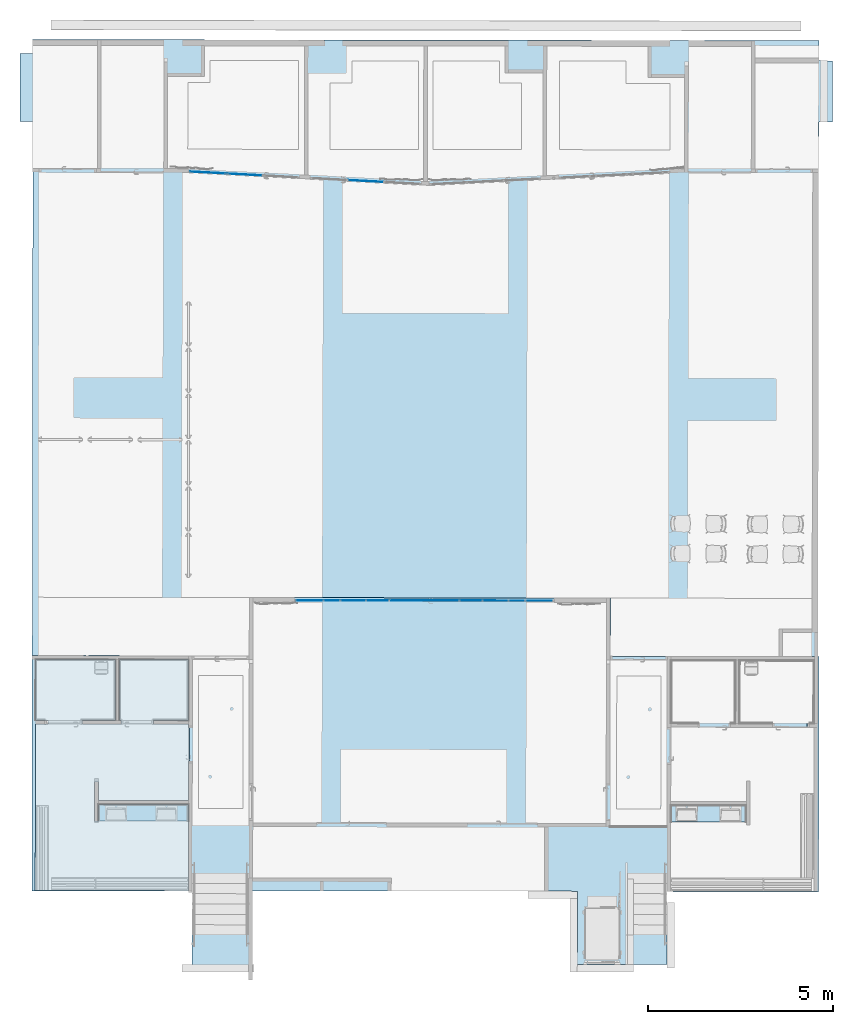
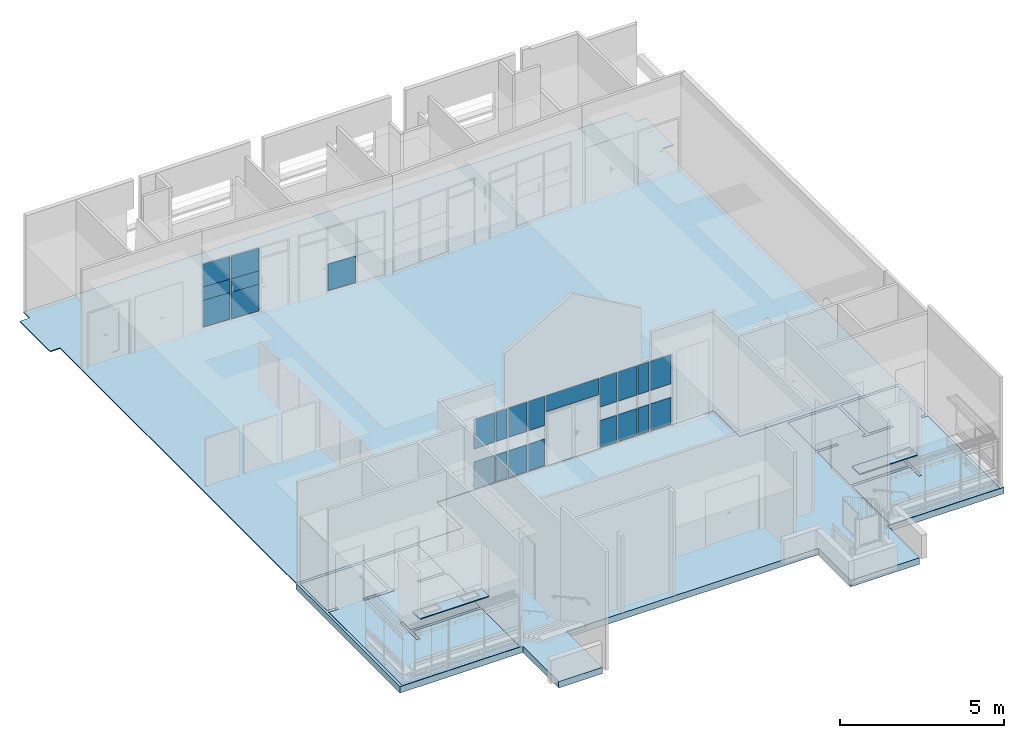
# One storey, part 7 of 43: 24 plates, 6 slabs, 3 elements without a shape of their own.
"""IFC2X3 building model written with IfcOpenShell, lengths in metres."""

from ifc_helpers import new_model, entity, si_unit, converted_unit, derived_unit, direction, frame, frame_2d, origin, place, context, subcontext, project, spatial, polyline, rectangle, outline, extrude, source, transform, mapped, material, layer, layer_set, layer_usage, type_object, type_shapes, element, aggregate, save


model = new_model("IFC2X3")

# Units and contexts
model_context = context("Model", 3, precision=1e-05, world=origin(), true_north=direction((6.123233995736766e-17, 1.0)))
body_context = subcontext(model_context, "Body", "Model", "MODEL_VIEW")
ifc_project = project(units=[si_unit("LENGTHUNIT", "METRE"), si_unit("AREAUNIT", "SQUARE_METRE"), converted_unit("PLANEANGLEUNIT", "DEGREE", entity("IfcPlaneAngleMeasure", 0.017453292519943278), si_unit("PLANEANGLEUNIT", "RADIAN"), dimensions=[0, 0, 0, 0, 0, 0, 0]), derived_unit("THERMALTRANSMITTANCEUNIT", [(si_unit("MASSUNIT", "GRAM", prefix="KILO"), 1), (si_unit("THERMODYNAMICTEMPERATUREUNIT", "KELVIN"), -1), (si_unit("TIMEUNIT", "SECOND"), -3)])], contexts=[model_context])

# Site, building, storey
site_placement = place(None, frame((1253.6752467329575, 2072.143113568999, 91.49999999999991), z_axis=(0.0, 0.0, 1.0), x_axis=(0.7237211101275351, 0.6900925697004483, 0.0)))
site = spatial("IfcSite", under=ifc_project, at=site_placement, Name="Surface", CompositionType="ELEMENT")
building_placement = place(site_placement, origin())
building = spatial("IfcBuilding", under=site, at=building_placement, CompositionType="ELEMENT")
storey_placement = place(building_placement, frame((0.0, 0.0, -4.629999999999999)))
storey = spatial("IfcBuildingStorey", under=building, at=storey_placement, Name="rez de rue -1.10m", CompositionType="ELEMENT", Elevation=-4.629999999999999)

# Slabs
ifc_material_1 = material(Name="OMD_flotex 2")
ifc_layer_1 = layer(ifc_material_1, 0.005)
ifc_material_2 = material(Name="OMD_Béton blanc")
ifc_layer_2 = layer(ifc_material_2, 0.01)
ifc_material_3 = material(Name="Résineux, bois de construction")
ifc_layer_3 = layer(ifc_material_3, 0.022)
ifc_layer_set_1 = layer_set([ifc_layer_1, ifc_layer_2, ifc_layer_3], Name="Sol:OSB 22mm + réagréage 3mm")
ifc_layer_usage_1 = layer_usage(ifc_layer_set_1, "AXIS3", "POSITIVE", 0.0)
slab_type_1 = type_object("IfcSlabType", Name="Sol:OSB 22mm + réagréage 3mm", PredefinedType="FLOOR", material=ifc_layer_set_1)
slab_1_placement = place(storey_placement, origin())
element("IfcSlab", 1, at=slab_1_placement, inside=storey, type_object=slab_type_1, material=ifc_layer_usage_1, Name="Sol:OSB 22mm + réagréage 3mm", ObjectType="Sol:OSB 22mm + réagréage 3mm", PredefinedType="FLOOR", context=body_context, shape_type="SweptSolid", body=[
    extrude(outline(polyline([(-6.7262951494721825, 10.607449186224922), (-6.726295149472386, -10.678678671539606), (-6.3477673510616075, -10.678678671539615), (-6.347767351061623, -11.01861349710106), (-4.501700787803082, -11.01861349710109), (-4.501700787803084, -10.66902036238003), (9.95496053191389, -10.669020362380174), (9.954008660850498, -4.794485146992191), (8.37349812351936, -4.794204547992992), (8.375232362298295, 4.974122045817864), (9.953436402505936, 4.9742144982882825), (9.953106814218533, 10.600430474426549), (-4.526998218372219, 10.606625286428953), (-4.526999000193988, 10.975560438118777), (-6.179359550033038, 10.975463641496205), (-6.17935955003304, 10.607449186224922), (-6.7262951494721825, 10.607449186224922)])), frame((178.99078907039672, 5.517400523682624, 0.0), z_axis=(0.0, 0.0, 1.0), x_axis=(-0.6910261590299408, -0.7228297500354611, 0.0)), (0.0, 0.0, -1.0), 0.03700000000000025),
])
ifc_material_4 = material(Name="OMD-plan de travail béton")
ifc_layer_4 = layer(ifc_material_4, 0.035)
ifc_layer_set_2 = layer_set([ifc_layer_4], Name="Sol:pl travail")
ifc_layer_usage_2 = layer_usage(ifc_layer_set_2, "AXIS3", "POSITIVE", 0.0)
slab_type_2 = type_object("IfcSlabType", Name="Sol:pl travail", PredefinedType="FLOOR", material=ifc_layer_set_2)
slab_2_placement = place(storey_placement, origin())
element("IfcSlab", 2, at=slab_2_placement, inside=storey, type_object=slab_type_2, material=ifc_layer_usage_2, Name="Sol:pl travail", ObjectType="Sol:pl travail", PredefinedType="FLOOR", context=body_context, shape_type="SweptSolid", body=[
    extrude(rectangle(XDim=0.4508958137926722, YDim=2.4402572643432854, at=frame_2d((-8.021361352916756e-15, 7.66053886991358e-15), x_axis=(1.0, 0.0))), frame((163.64631524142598, 0.5407465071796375, 0.7500000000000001), z_axis=(0.0, 0.0, -1.0), x_axis=(-0.6911544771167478, -0.722707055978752, 0.0)), (0.0, 0.0, 1.0), 0.03500000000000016),
])
ifc_layer_usage_3 = layer_usage(ifc_layer_set_2, "AXIS3", "POSITIVE", 0.0)
slab_3_placement = place(storey_placement, origin())
element("IfcSlab", 3, at=slab_3_placement, inside=storey, type_object=slab_type_2, material=ifc_layer_usage_3, Name="Sol:pl travail", ObjectType="Sol:pl travail", PredefinedType="FLOOR", context=body_context, shape_type="SweptSolid", body=[
    extrude(rectangle(XDim=0.4573300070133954, YDim=2.0456550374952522, at=frame_2d((3.569367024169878e-14, 1.3877787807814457e-14), x_axis=(1.0, 0.0))), frame((174.6994188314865, -10.034792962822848, 0.7500000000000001), z_axis=(0.0, 0.0, -1.0), x_axis=(-0.6911544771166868, -0.7227070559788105, 0.0)), (0.0, 0.0, 1.0), 0.03500000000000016),
])

# Curtain wall, plates
curtain_wall_type = type_object("IfcCurtainWallType", Name="Mur-rideau:Menuiserie Int", PredefinedType="NOTDEFINED")
curtain_wall_1_placement = place(storey_placement, frame((0.0, 0.0, 4.629999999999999)))
curtain_wall_1 = element("IfcCurtainWall", 4, at=curtain_wall_1_placement, inside=storey, type_object=curtain_wall_type, Name="Mur-rideau:Menuiserie Int", ObjectType="Mur-rideau:Menuiserie Int")
ifc_material_5 = material(Name="Verre")
ifc_layer_5 = layer(ifc_material_5, 0.01)
ifc_layer_set_3 = layer_set([ifc_layer_5], Name="Panneau système:Vitré")
plate_type_1 = type_object("IfcPlateType", Name="Panneau système:Vitré", PredefinedType="CURTAIN_PANEL", material=ifc_layer_set_3)
shared_shape_1 = source(origin(), body_context, "Body", "SweptSolid", [
    extrude(rectangle(XDim=0.01, YDim=0.7115193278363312, at=frame_2d((0.0, -2.1649348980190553e-15), x_axis=(1.0, 0.0))), frame((0.0, 0.0, 0.0), z_axis=(0.0, 0.0, 1.0), x_axis=(0.0, 1.0, 0.0)), (0.0, 0.0, 1.0), 0.9999999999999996),
])
type_shapes(plate_type_1, [shared_shape_1])
plate_1_placement = place(curtain_wall_1_placement, frame((175.3603650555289, -2.7019199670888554, -4.529999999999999), z_axis=(0.0, 0.0, 1.0), x_axis=(-0.7227070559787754, 0.6911544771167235, 0.0)))
plate_1 = element("IfcPlate", 5, at=plate_1_placement, type_object=plate_type_1, material=ifc_material_5, Name="Panneau système:Vitré", ObjectType="Panneau système:Vitré", context=body_context, shape_type="MappedRepresentation", body=[
    mapped(shared_shape_1, transform((0.0, 0.0, 0.0), scale=1.0)),
])
plate_type_2 = type_object("IfcPlateType", Name="Panneau système:Vitré", PredefinedType="CURTAIN_PANEL", material=ifc_layer_set_3)
shared_shape_2 = source(origin(), body_context, "Body", "SweptSolid", [
    extrude(rectangle(XDim=0.01, YDim=0.40004317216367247, at=frame_2d((0.0, -4.565792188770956e-15), x_axis=(1.0, 0.0))), frame((0.0, 0.0, 0.0), z_axis=(0.0, 0.0, 1.0), x_axis=(0.0, 1.0, 0.0)), (0.0, 0.0, 1.0), 0.9999999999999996),
])
type_shapes(plate_type_2, [shared_shape_2])
plate_2_placement = place(curtain_wall_1_placement, frame((174.92256267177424, -2.2832315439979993, -4.529999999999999), z_axis=(0.0, 0.0, 1.0), x_axis=(-0.7227070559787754, 0.6911544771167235, 0.0)))
plate_2 = element("IfcPlate", 6, at=plate_2_placement, type_object=plate_type_2, material=ifc_material_5, Name="Panneau système:Vitré", ObjectType="Panneau système:Vitré", context=body_context, shape_type="MappedRepresentation", body=[
    mapped(shared_shape_2, transform((0.0, 0.0, 0.0), scale=1.0)),
])
plate_type_3 = type_object("IfcPlateType", Name="Panneau système:Vitré", PredefinedType="CURTAIN_PANEL", material=ifc_layer_set_3)
shared_shape_3 = source(origin(), body_context, "Body", "SweptSolid", [
    extrude(rectangle(XDim=0.01, YDim=0.6534375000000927, at=frame_2d((0.0, -1.7763568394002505e-15), x_axis=(1.0, 0.0))), frame((0.0, 0.0, 0.0), z_axis=(0.0, 0.0, 1.0), x_axis=(0.0, 1.0, 0.0)), (0.0, 0.0, 1.0), 0.9999999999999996),
])
type_shapes(plate_type_3, [shared_shape_3])
plate_3_placement = place(curtain_wall_1_placement, frame((174.50574836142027, -1.8846148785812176, -4.529999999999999), z_axis=(0.0, 0.0, 1.0), x_axis=(-0.7227070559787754, 0.6911544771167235, 0.0)))
plate_3 = element("IfcPlate", 7, at=plate_3_placement, type_object=plate_type_3, material=ifc_material_5, Name="Panneau système:Vitré", ObjectType="Panneau système:Vitré", context=body_context, shape_type="MappedRepresentation", body=[
    mapped(shared_shape_3, transform((0.0, 0.0, 0.0), scale=1.0)),
])
plate_type_4 = type_object("IfcPlateType", Name="Panneau système:Vitré", PredefinedType="CURTAIN_PANEL", material=ifc_layer_set_3)
shared_shape_4 = source(origin(), body_context, "Body", "SweptSolid", [
    extrude(rectangle(XDim=0.01, YDim=0.5749999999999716, at=frame_2d((0.0, -5.551115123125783e-17), x_axis=(1.0, 0.0))), frame((0.0, 0.0, 0.0), z_axis=(0.0, 0.0, 1.0), x_axis=(0.0, 1.0, 0.0)), (0.0, 0.0, 1.0), 0.9999999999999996),
])
type_shapes(plate_type_4, [shared_shape_4])
plate_4_placement = place(curtain_wall_1_placement, frame((174.02571278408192, -1.425537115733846, -4.529999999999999), z_axis=(0.0, 0.0, 1.0), x_axis=(-0.7227070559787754, 0.6911544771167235, 0.0)))
plate_4 = element("IfcPlate", 8, at=plate_4_placement, type_object=plate_type_4, material=ifc_material_5, Name="Panneau système:Vitré", ObjectType="Panneau système:Vitré", context=body_context, shape_type="MappedRepresentation", body=[
    mapped(shared_shape_4, transform((0.0, 0.0, 0.0), scale=1.0)),
])
plate_5_placement = place(curtain_wall_1_placement, frame((172.19636054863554, 0.3239476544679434, -4.529999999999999), z_axis=(0.0, 0.0, 1.0), x_axis=(-0.7227070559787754, 0.6911544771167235, 0.0)))
plate_5 = element("IfcPlate", 9, at=plate_5_placement, type_object=plate_type_4, material=ifc_material_5, Name="Panneau système:Vitré", ObjectType="Panneau système:Vitré", context=body_context, shape_type="MappedRepresentation", body=[
    mapped(shared_shape_4, transform((0.0, 0.0, 0.0), scale=1.0)),
])
plate_type_5 = type_object("IfcPlateType", Name="Panneau système:Vitré", PredefinedType="CURTAIN_PANEL", material=ifc_layer_set_3)
shared_shape_5 = source(origin(), body_context, "Body", "SweptSolid", [
    extrude(rectangle(XDim=0.01, YDim=0.6501545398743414, at=frame_2d((0.0, 3.0253577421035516e-15), x_axis=(1.0, 0.0))), frame((0.0, 0.0, 0.0), z_axis=(0.0, 0.0, 1.0), x_axis=(0.0, 1.0, 0.0)), (0.0, 0.0, 1.0), 0.9999999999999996),
])
type_shapes(plate_type_5, [shared_shape_5])
plate_6_placement = place(curtain_wall_1_placement, frame((171.7175112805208, 0.7818909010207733, -4.529999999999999), z_axis=(0.0, 0.0, 1.0), x_axis=(-0.7227070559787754, 0.6911544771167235, 0.0)))
plate_6 = element("IfcPlate", 10, at=plate_6_placement, type_object=plate_type_5, material=ifc_material_5, Name="Panneau système:Vitré", ObjectType="Panneau système:Vitré", context=body_context, shape_type="MappedRepresentation", body=[
    mapped(shared_shape_5, transform((0.0, 0.0, 0.0), scale=1.0)),
])
plate_type_6 = type_object("IfcPlateType", Name="Panneau système:Vitré", PredefinedType="CURTAIN_PANEL", material=ifc_layer_set_3)
shared_shape_6 = source(origin(), body_context, "Body", "SweptSolid", [
    extrude(rectangle(XDim=0.01, YDim=0.40000032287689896, at=frame_2d((0.0, -4.066191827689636e-15), x_axis=(1.0, 0.0))), frame((0.0, 0.0, 0.0), z_axis=(0.0, 0.0, 1.0), x_axis=(0.0, 1.0, 0.0)), (0.0, 0.0, 1.0), 0.9999999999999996),
])
type_shapes(plate_type_6, [shared_shape_6])
plate_7_placement = place(curtain_wall_1_placement, frame((171.30189876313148, 1.1793582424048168, -4.529999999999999), z_axis=(0.0, 0.0, 1.0), x_axis=(-0.7227070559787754, 0.6911544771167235, 0.0)))
plate_7 = element("IfcPlate", 11, at=plate_7_placement, type_object=plate_type_6, material=ifc_material_5, Name="Panneau système:Vitré", ObjectType="Panneau système:Vitré", context=body_context, shape_type="MappedRepresentation", body=[
    mapped(shared_shape_6, transform((0.0, 0.0, 0.0), scale=1.0)),
])
plate_type_7 = type_object("IfcPlateType", Name="Panneau système:Vitré", PredefinedType="CURTAIN_PANEL", material=ifc_layer_set_3)
shared_shape_7 = source(origin(), body_context, "Body", "SweptSolid", [
    extrude(rectangle(XDim=0.01, YDim=0.7101866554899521, at=frame_2d((0.0, -4.191091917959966e-15), x_axis=(1.0, 0.0))), frame((0.0, 0.0, 0.0), z_axis=(0.0, 0.0, 1.0), x_axis=(0.0, 1.0, 0.0)), (0.0, 0.0, 1.0), 0.9999999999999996),
])
type_shapes(plate_type_7, [shared_shape_7])
plate_8_placement = place(curtain_wall_1_placement, frame((170.86459342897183, 1.5975713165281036, -4.529999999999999), z_axis=(0.0, 0.0, 1.0), x_axis=(-0.7227070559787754, 0.6911544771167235, 0.0)))
plate_8 = element("IfcPlate", 12, at=plate_8_placement, type_object=plate_type_7, material=ifc_material_5, Name="Panneau système:Vitré", ObjectType="Panneau système:Vitré", context=body_context, shape_type="MappedRepresentation", body=[
    mapped(shared_shape_7, transform((0.0, 0.0, 0.0), scale=1.0)),
])
plate_type_8 = type_object("IfcPlateType", Name="Panneau système:Vitré", PredefinedType="CURTAIN_PANEL", material=ifc_layer_set_3)
shared_shape_8 = source(origin(), body_context, "Body", "SweptSolid", [
    extrude(rectangle(XDim=1.0900000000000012, YDim=0.7115193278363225, at=frame_2d((0.0283333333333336, 4.135580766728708e-15), x_axis=(1.0, 0.0))), frame((0.0, -0.004999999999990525, 0.516666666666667), z_axis=(0.0, 1.0, 0.0), x_axis=(0.0, 0.0, 1.0)), (0.0, 0.0, 1.0), 0.01),
])
type_shapes(plate_type_8, [shared_shape_8])
plate_9_placement = place(curtain_wall_1_placement, frame((175.3603650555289, -2.7019199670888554, -3.0300000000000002), z_axis=(0.0, 0.0, 1.0), x_axis=(-0.7227070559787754, 0.6911544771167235, 0.0)))
plate_9 = element("IfcPlate", 13, at=plate_9_placement, type_object=plate_type_8, material=ifc_material_5, Name="Panneau système:Vitré", ObjectType="Panneau système:Vitré", context=body_context, shape_type="MappedRepresentation", body=[
    mapped(shared_shape_8, transform((0.0, 0.0, 0.0), scale=1.0)),
])
plate_type_9 = type_object("IfcPlateType", Name="Panneau système:Vitré", PredefinedType="CURTAIN_PANEL", material=ifc_layer_set_3)
shared_shape_9 = source(origin(), body_context, "Body", "SweptSolid", [
    extrude(rectangle(XDim=1.0900000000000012, YDim=0.40004317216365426, at=frame_2d((0.0283333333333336, 5.676015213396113e-15), x_axis=(1.0, 0.0))), frame((0.0, -0.004999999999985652, 0.516666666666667), z_axis=(0.0, 1.0, 0.0), x_axis=(0.0, 0.0, 1.0)), (0.0, 0.0, 1.0), 0.01),
])
type_shapes(plate_type_9, [shared_shape_9])
plate_10_placement = place(curtain_wall_1_placement, frame((174.92256267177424, -2.2832315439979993, -3.0300000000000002), z_axis=(0.0, 0.0, 1.0), x_axis=(-0.7227070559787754, 0.6911544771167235, 0.0)))
plate_10 = element("IfcPlate", 14, at=plate_10_placement, type_object=plate_type_9, material=ifc_material_5, Name="Panneau système:Vitré", ObjectType="Panneau système:Vitré", context=body_context, shape_type="MappedRepresentation", body=[
    mapped(shared_shape_9, transform((0.0, 0.0, 0.0), scale=1.0)),
])
plate_type_10 = type_object("IfcPlateType", Name="Panneau système:Vitré", PredefinedType="CURTAIN_PANEL", material=ifc_layer_set_3)
shared_shape_10 = source(origin(), body_context, "Body", "SweptSolid", [
    extrude(rectangle(XDim=1.0900000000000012, YDim=0.6534375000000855, at=frame_2d((0.0283333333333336, 5.551115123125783e-17), x_axis=(1.0, 0.0))), frame((0.0, -0.005000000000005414, 0.516666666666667), z_axis=(0.0, 1.0, 0.0), x_axis=(0.0, 0.0, 1.0)), (0.0, 0.0, 1.0), 0.01),
])
type_shapes(plate_type_10, [shared_shape_10])
plate_11_placement = place(curtain_wall_1_placement, frame((174.50574836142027, -1.8846148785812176, -3.0300000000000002), z_axis=(0.0, 0.0, 1.0), x_axis=(-0.7227070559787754, 0.6911544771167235, 0.0)))
plate_11 = element("IfcPlate", 15, at=plate_11_placement, type_object=plate_type_10, material=ifc_material_5, Name="Panneau système:Vitré", ObjectType="Panneau système:Vitré", context=body_context, shape_type="MappedRepresentation", body=[
    mapped(shared_shape_10, transform((0.0, 0.0, 0.0), scale=1.0)),
])
plate_type_11 = type_object("IfcPlateType", Name="Panneau système:Vitré", PredefinedType="CURTAIN_PANEL", material=ifc_layer_set_3)
shared_shape_11 = source(origin(), body_context, "Body", "SweptSolid", [
    extrude(rectangle(XDim=1.0900000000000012, YDim=0.5749999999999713, at=frame_2d((0.0283333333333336, -3.608224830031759e-16), x_axis=(1.0, 0.0))), frame((0.0, -0.004999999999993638, 0.516666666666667), z_axis=(0.0, 1.0, 0.0), x_axis=(0.0, 0.0, 1.0)), (0.0, 0.0, 1.0), 0.01),
])
type_shapes(plate_type_11, [shared_shape_11])
plate_12_placement = place(curtain_wall_1_placement, frame((174.02571278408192, -1.425537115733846, -3.0300000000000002), z_axis=(0.0, 0.0, 1.0), x_axis=(-0.7227070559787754, 0.6911544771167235, 0.0)))
plate_12 = element("IfcPlate", 16, at=plate_12_placement, type_object=plate_type_11, material=ifc_material_5, Name="Panneau système:Vitré", ObjectType="Panneau système:Vitré", context=body_context, shape_type="MappedRepresentation", body=[
    mapped(shared_shape_11, transform((0.0, 0.0, 0.0), scale=1.0)),
])
plate_13_placement = place(curtain_wall_1_placement, frame((172.19636054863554, 0.3239476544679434, -3.0300000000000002), z_axis=(0.0, 0.0, 1.0), x_axis=(-0.7227070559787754, 0.6911544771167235, 0.0)))
plate_13 = element("IfcPlate", 17, at=plate_13_placement, type_object=plate_type_11, material=ifc_material_5, Name="Panneau système:Vitré", ObjectType="Panneau système:Vitré", context=body_context, shape_type="MappedRepresentation", body=[
    mapped(shared_shape_11, transform((0.0, 0.0, 0.0), scale=1.0)),
])
plate_type_12 = type_object("IfcPlateType", Name="Panneau système:Vitré", PredefinedType="CURTAIN_PANEL", material=ifc_layer_set_3)
shared_shape_12 = source(origin(), body_context, "Body", "SweptSolid", [
    extrude(rectangle(XDim=1.0900000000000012, YDim=0.6501545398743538, at=frame_2d((0.0283333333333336, -1.942890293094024e-16), x_axis=(1.0, 0.0))), frame((0.0, -0.004999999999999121, 0.516666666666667), z_axis=(0.0, 1.0, 0.0), x_axis=(0.0, 0.0, 1.0)), (0.0, 0.0, 1.0), 0.01),
])
type_shapes(plate_type_12, [shared_shape_12])
plate_14_placement = place(curtain_wall_1_placement, frame((171.7175112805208, 0.7818909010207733, -3.0300000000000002), z_axis=(0.0, 0.0, 1.0), x_axis=(-0.7227070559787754, 0.6911544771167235, 0.0)))
plate_14 = element("IfcPlate", 18, at=plate_14_placement, type_object=plate_type_12, material=ifc_material_5, Name="Panneau système:Vitré", ObjectType="Panneau système:Vitré", context=body_context, shape_type="MappedRepresentation", body=[
    mapped(shared_shape_12, transform((0.0, 0.0, 0.0), scale=1.0)),
])
plate_type_13 = type_object("IfcPlateType", Name="Panneau système:Vitré", PredefinedType="CURTAIN_PANEL", material=ifc_layer_set_3)
shared_shape_13 = source(origin(), body_context, "Body", "SweptSolid", [
    extrude(rectangle(XDim=1.0900000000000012, YDim=0.4000003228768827, at=frame_2d((0.0283333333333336, 5.995204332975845e-15), x_axis=(1.0, 0.0))), frame((0.0, -0.005000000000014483, 0.516666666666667), z_axis=(0.0, 1.0, 0.0), x_axis=(0.0, 0.0, 1.0)), (0.0, 0.0, 1.0), 0.01),
])
type_shapes(plate_type_13, [shared_shape_13])
plate_15_placement = place(curtain_wall_1_placement, frame((171.30189876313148, 1.1793582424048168, -3.0300000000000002), z_axis=(0.0, 0.0, 1.0), x_axis=(-0.7227070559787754, 0.6911544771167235, 0.0)))
plate_15 = element("IfcPlate", 19, at=plate_15_placement, type_object=plate_type_13, material=ifc_material_5, Name="Panneau système:Vitré", ObjectType="Panneau système:Vitré", context=body_context, shape_type="MappedRepresentation", body=[
    mapped(shared_shape_13, transform((0.0, 0.0, 0.0), scale=1.0)),
])
plate_type_14 = type_object("IfcPlateType", Name="Panneau système:Vitré", PredefinedType="CURTAIN_PANEL", material=ifc_layer_set_3)
shared_shape_14 = source(origin(), body_context, "Body", "SweptSolid", [
    extrude(rectangle(XDim=1.0900000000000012, YDim=0.710186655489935, at=frame_2d((0.0283333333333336, 1.4710455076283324e-15), x_axis=(1.0, 0.0))), frame((0.0, -0.004999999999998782, 0.516666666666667), z_axis=(0.0, 1.0, 0.0), x_axis=(0.0, 0.0, 1.0)), (0.0, 0.0, 1.0), 0.01),
])
type_shapes(plate_type_14, [shared_shape_14])
plate_16_placement = place(curtain_wall_1_placement, frame((170.86459342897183, 1.5975713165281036, -3.0300000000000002), z_axis=(0.0, 0.0, 1.0), x_axis=(-0.7227070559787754, 0.6911544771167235, 0.0)))
plate_16 = element("IfcPlate", 20, at=plate_16_placement, type_object=plate_type_14, material=ifc_material_5, Name="Panneau système:Vitré", ObjectType="Panneau système:Vitré", context=body_context, shape_type="MappedRepresentation", body=[
    mapped(shared_shape_14, transform((0.0, 0.0, 0.0), scale=1.0)),
])
plate_type_15 = type_object("IfcPlateType", Name="Panneau système:Vitré", PredefinedType="CURTAIN_PANEL", material=ifc_layer_set_3)
shared_shape_15 = source(origin(), body_context, "Body", "SweptSolid", [
    extrude(rectangle(XDim=0.01, YDim=1.8562500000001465, at=frame_2d((0.0, 3.885780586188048e-16), x_axis=(1.0, 0.0))), frame((0.0, 0.0, 0.0), z_axis=(0.0, 0.0, 1.0), x_axis=(0.0, 1.0, 0.0)), (0.0, 0.0, 1.0), 0.6050000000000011),
])
type_shapes(plate_type_15, [shared_shape_15])
plate_17_placement = place(curtain_wall_1_placement, frame((173.11103666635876, -0.5507947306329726, -2.545), z_axis=(0.0, 0.0, 1.0), x_axis=(-0.7227070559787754, 0.6911544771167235, 0.0)))
plate_17 = element("IfcPlate", 21, at=plate_17_placement, type_object=plate_type_15, material=ifc_material_5, Name="Panneau système:Vitré", ObjectType="Panneau système:Vitré", context=body_context, shape_type="MappedRepresentation", body=[
    mapped(shared_shape_15, transform((0.0, 0.0, 0.0), scale=1.0)),
])
aggregate(curtain_wall_1, [plate_1, plate_2, plate_3, plate_4, plate_5, plate_6, plate_7, plate_8, plate_9, plate_10, plate_11, plate_12, plate_13, plate_14, plate_15, plate_16, plate_17])

# Slab
ifc_material_6 = material(Name="OMD_dalle")
ifc_layer_6 = layer(ifc_material_6, 0.01)
ifc_material_7 = material(Name="Béton - Béton coulé sur place")
ifc_layer_7 = layer(ifc_material_7, 0.12999999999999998)
ifc_material_8 = material(Name="OMD_ITE 10cm")
ifc_layer_8 = layer(ifc_material_8, 0.1)
ifc_layer_set_4 = layer_set([ifc_layer_6, ifc_layer_7, ifc_layer_8], Name="Sol:Dalle béton 13 cm")
ifc_layer_usage_4 = layer_usage(ifc_layer_set_4, "AXIS3", "POSITIVE", 0.0)
slab_type_3 = type_object("IfcSlabType", Name="Sol:Dalle béton 13 cm", PredefinedType="FLOOR", material=ifc_layer_set_4)
slab_4_placement = place(storey_placement, origin())
element("IfcSlab", 22, at=slab_4_placement, inside=storey, type_object=slab_type_3, material=ifc_layer_usage_4, Name="Sol:Dalle béton 13 cm", ObjectType="Sol:Dalle béton 13 cm", PredefinedType="FLOOR", context=body_context, shape_type="SweptSolid", body=[
    extrude(outline(polyline([(-10.623334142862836, 4.302657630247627), (-10.623334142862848, -2.0670135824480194), (-6.28762533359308, -2.0670135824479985), (-6.287625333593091, -4.2572228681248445), (-4.747484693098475, -4.257222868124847), (-4.747113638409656, -2.0570581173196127), (4.142942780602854, -2.0575263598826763), (4.141875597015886, -4.037214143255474), (6.56667437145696, -4.037914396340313), (6.567243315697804, -2.0678048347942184), (10.676498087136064, -2.0680212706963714), (10.676833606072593, 4.3021434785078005), (5.020327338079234, 4.302441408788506), (5.020410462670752, 5.880645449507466), (-4.7479158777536, 5.883466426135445), (-4.748372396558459, 4.302657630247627), (-10.623334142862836, 4.302657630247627)])), frame((169.1062329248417, -4.7560413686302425, -0.0022222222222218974), z_axis=(0.0, 0.0, 1.0), x_axis=(0.7229066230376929, -0.690945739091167, 0.0)), (0.0, 0.0, -1.0), 0.24000000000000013),
])

# Curtain wall, plate
curtain_wall_2_placement = place(storey_placement, frame((0.0, 0.0, 4.629999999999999)))
curtain_wall_2 = element("IfcCurtainWall", 23, at=curtain_wall_2_placement, inside=storey, type_object=curtain_wall_type, Name="Mur-rideau:Menuiserie Int", ObjectType="Mur-rideau:Menuiserie Int")
plate_type_16 = type_object("IfcPlateType", Name="Panneau système:Vitré", PredefinedType="CURTAIN_PANEL", material=ifc_layer_set_3)
shared_shape_16 = source(origin(), body_context, "Body", "SweptSolid", [
    extrude(rectangle(XDim=0.01, YDim=0.9499999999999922, at=frame_2d((0.0, -6.161737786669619e-15), x_axis=(1.0, 0.0))), frame((0.0, 0.0, 0.0), z_axis=(0.0, 0.0, 1.0), x_axis=(0.0, 1.0, 0.0)), (0.0, 0.0, 1.0), 1.0),
])
type_shapes(plate_type_16, [shared_shape_16])
plate_18_placement = place(curtain_wall_2_placement, frame((179.7996649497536, 8.763895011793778, -4.529999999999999), z_axis=(0.0, 0.0, 1.0), x_axis=(0.6855443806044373, -0.7280308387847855, 0.0)))
plate_18 = element("IfcPlate", 24, at=plate_18_placement, type_object=plate_type_16, material=ifc_material_5, Name="Panneau système:Vitré", ObjectType="Panneau système:Vitré", context=body_context, shape_type="MappedRepresentation", body=[
    mapped(shared_shape_16, transform((0.0, 0.0, 0.0), scale=1.0)),
])
aggregate(curtain_wall_2, [plate_18])

# Slabs
ifc_material_9 = material(Name="OMD_carrelage effet béton")
ifc_layer_9 = layer(ifc_material_9, 0.02)
ifc_layer_set_5 = layer_set([ifc_layer_9], Name="Sol:carrelage effet béton 60*60")
ifc_layer_usage_5 = layer_usage(ifc_layer_set_5, "AXIS3", "POSITIVE", 0.0)
slab_type_4 = type_object("IfcSlabType", Name="Sol:carrelage effet béton 60*60", PredefinedType="FLOOR", material=ifc_layer_set_5)
slab_5_placement = place(storey_placement, origin())
element("IfcSlab", 25, at=slab_5_placement, inside=storey, type_object=slab_type_4, material=ifc_layer_usage_5, Name="Sol:carrelage effet béton 60*60", ObjectType="Sol:carrelage effet béton 60*60", PredefinedType="FLOOR", context=body_context, shape_type="SweptSolid", body=[
    extrude(outline(polyline([(-2.335034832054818, -2.383056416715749), (-0.16384408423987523, -2.3830564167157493), (-0.16384408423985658, -0.7341229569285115), (-1.063844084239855, -0.7341229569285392), (-1.0638440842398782, -0.6341229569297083), (-0.013844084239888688, -0.6341229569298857), (-0.01384408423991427, -0.7341229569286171), (-0.06384408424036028, -0.7341229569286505), (-0.06384408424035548, -2.3835926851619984), (1.813081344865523, -2.3835926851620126), (1.8130813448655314, -0.7341229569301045), (0.8561559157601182, -0.7341229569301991), (0.8561559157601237, -0.6341229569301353), (1.8130813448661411, -0.6341229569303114), (1.813081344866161, -0.5491229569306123), (1.8430813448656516, -0.5491229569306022), (1.8430813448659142, 0.3808770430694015), (1.8130813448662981, 0.3808770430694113), (1.8130813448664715, 1.437298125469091), (-0.6275538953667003, 1.436721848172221), (-0.6274358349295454, 0.9367152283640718), (-0.7274358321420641, 0.936691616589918), (-0.7276839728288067, 1.9876108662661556), (-0.6276839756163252, 1.9876344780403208), (-0.6275775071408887, 1.5367218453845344), (1.8130813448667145, 1.5372981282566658), (1.8130813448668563, 3.875409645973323), (-2.3346218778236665, 3.8754096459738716), (-2.3346218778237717, -0.6341229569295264), (-1.9938440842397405, -0.6341229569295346), (-1.993844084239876, -0.7341229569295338), (-2.3350348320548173, -0.7341229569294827), (-2.335034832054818, -2.383056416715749)])), frame((164.43571921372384, 2.2241046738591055, 0.0), z_axis=(0.0, 0.0, -1.0), x_axis=(0.7227070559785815, -0.6911544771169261, 0.0)), (0.0, 0.0, 1.0), 0.019999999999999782),
])
ifc_layer_usage_6 = layer_usage(ifc_layer_set_5, "AXIS3", "POSITIVE", 0.0)
slab_6_placement = place(storey_placement, origin())
element("IfcSlab", 26, at=slab_6_placement, inside=storey, type_object=slab_type_4, material=ifc_layer_usage_6, Name="Sol:carrelage effet béton 60*60", ObjectType="Sol:carrelage effet béton 60*60", PredefinedType="FLOOR", context=body_context, shape_type="SweptSolid", body=[
    extrude(outline(polyline([(-0.03046019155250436, -2.432551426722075), (2.0005927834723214, -2.4325514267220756), (2.000592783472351, -0.7166795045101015), (1.8095398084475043, -0.7166795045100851), (1.8095398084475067, -0.6166795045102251), (1.9985205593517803, -0.6166795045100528), (1.997408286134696, 3.8274634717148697), (-1.8804601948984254, 3.8283791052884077), (-1.880460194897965, 1.4932158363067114), (0.16519484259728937, 1.4932158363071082), (0.16519484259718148, 2.0332158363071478), (0.2651948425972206, 2.0332158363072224), (0.2651948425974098, 0.8332158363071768), (0.16519484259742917, 0.8332158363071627), (0.16519484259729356, 1.3932158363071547), (-1.8804601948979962, 1.3932158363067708), (-1.8804601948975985, -0.616679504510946), (-1.1404601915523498, -0.6166795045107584), (-1.140460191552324, -0.7166795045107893), (-1.8804601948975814, -0.7166795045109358), (-1.8804601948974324, -2.431270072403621), (-0.13046019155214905, -2.4316832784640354), (-0.1304601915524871, -0.7166795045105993), (-0.270460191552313, -0.7166795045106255), (-0.27046019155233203, -0.6166795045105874), (0.8095398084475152, -0.6166795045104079), (0.8095398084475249, -0.7166795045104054), (-0.030460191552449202, -0.7166795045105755), (-0.03046019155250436, -2.432551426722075)])), frame((176.50932166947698, -9.383134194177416, 0.0), z_axis=(0.0, 0.0, -1.0), x_axis=(0.7227070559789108, -0.6911544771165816, 0.0)), (0.0, 0.0, 1.0), 0.019999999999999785),
])

# Curtain wall, plates
curtain_wall_3_placement = place(storey_placement, frame((0.0, 0.0, 4.629999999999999)))
curtain_wall_3 = element("IfcCurtainWall", 27, at=curtain_wall_3_placement, inside=storey, type_object=curtain_wall_type, Name="Mur-rideau:Menuiserie Int", ObjectType="Mur-rideau:Menuiserie Int")
plate_type_17 = type_object("IfcPlateType", Name="Panneau système:Vitré", PredefinedType="CURTAIN_PANEL", material=ifc_layer_set_3)
shared_shape_17 = source(origin(), body_context, "Body", "SweptSolid", [
    extrude(rectangle(XDim=0.01, YDim=0.9499999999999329, at=frame_2d((0.0, 1.2212453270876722e-15), x_axis=(1.0, 0.0))), frame((0.0, 0.0, 0.0), z_axis=(0.0, 0.0, 1.0), x_axis=(0.0, 1.0, 0.0)), (0.0, 0.0, 1.0), 1.0),
])
type_shapes(plate_type_17, [shared_shape_17])
plate_19_placement = place(curtain_wall_3_placement, frame((177.53496774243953, 11.168946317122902, -4.529999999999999), z_axis=(0.0, 0.0, 1.0), x_axis=(-0.6855443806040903, 0.7280308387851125, 0.0)))
plate_19 = element("IfcPlate", 28, at=plate_19_placement, type_object=plate_type_17, material=ifc_material_5, Name="Panneau système:Vitré", ObjectType="Panneau système:Vitré", context=body_context, shape_type="MappedRepresentation", body=[
    mapped(shared_shape_17, transform((0.0, 0.0, 0.0), scale=1.0)),
])
ifc_material_10 = material(Name="Verre, vitrage transparent")
ifc_layer_10 = layer(ifc_material_5, 0.01)
ifc_layer_set_6 = layer_set([ifc_layer_10], Name="Panneau système:Vitré +vitro")
plate_type_18 = type_object("IfcPlateType", Name="Panneau système:Vitré +vitro", PredefinedType="CURTAIN_PANEL", material=ifc_layer_set_6)
shared_shape_18 = source(origin(), body_context, "Body", "SweptSolid", [
    extrude(rectangle(XDim=0.01, YDim=0.9499999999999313, at=frame_2d((0.0, 1.304512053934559e-15), x_axis=(1.0, 0.0))), frame((0.0, 0.0, 0.0), z_axis=(0.0, 0.0, 1.0), x_axis=(0.0, 1.0, 0.0)), (0.0, 0.0, 1.0), 0.5),
])
type_shapes(plate_type_18, [shared_shape_18])
plate_20_placement = place(curtain_wall_3_placement, frame((177.53496774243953, 11.168946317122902, -3.529999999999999), z_axis=(0.0, 0.0, 1.0), x_axis=(-0.6855443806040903, 0.7280308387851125, 0.0)))
plate_20 = element("IfcPlate", 29, at=plate_20_placement, type_object=plate_type_18, material=ifc_material_10, Name="Panneau système:Vitré +vitro", ObjectType="Panneau système:Vitré +vitro", context=body_context, shape_type="MappedRepresentation", body=[
    mapped(shared_shape_18, transform((0.0, 0.0, 0.0), scale=1.0)),
])
plate_type_19 = type_object("IfcPlateType", Name="Panneau système:Vitré", PredefinedType="CURTAIN_PANEL", material=ifc_layer_set_3)
shared_shape_19 = source(origin(), body_context, "Body", "SweptSolid", [
    extrude(rectangle(XDim=0.8499999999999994, YDim=0.9499999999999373, at=frame_2d((-0.01166666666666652, -6.022959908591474e-15), x_axis=(1.0, 0.0))), frame((0.0, -0.0049999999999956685, 0.43666666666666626), z_axis=(0.0, 1.0, 0.0), x_axis=(0.0, 0.0, 1.0)), (0.0, 0.0, 1.0), 0.01),
])
type_shapes(plate_type_19, [shared_shape_19])
plate_21_placement = place(curtain_wall_3_placement, frame((177.53496774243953, 11.168946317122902, -3.029999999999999), z_axis=(0.0, 0.0, 1.0), x_axis=(-0.6855443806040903, 0.7280308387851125, 0.0)))
plate_21 = element("IfcPlate", 30, at=plate_21_placement, type_object=plate_type_19, material=ifc_material_5, Name="Panneau système:Vitré", ObjectType="Panneau système:Vitré", context=body_context, shape_type="MappedRepresentation", body=[
    mapped(shared_shape_19, transform((0.0, 0.0, 0.0), scale=1.0)),
])
plate_type_20 = type_object("IfcPlateType", Name="Panneau système:Vitré", PredefinedType="CURTAIN_PANEL", material=ifc_layer_set_3)
shared_shape_20 = source(origin(), body_context, "Body", "SweptSolid", [
    extrude(rectangle(XDim=0.01, YDim=0.9249991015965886, at=frame_2d((0.0, -4.718447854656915e-16), x_axis=(1.0, 0.0))), frame((0.0, 0.0, 0.0), z_axis=(0.0, 0.0, 1.0), x_axis=(0.0, 1.0, 0.0)), (0.0, 0.0, 1.0), 1.0),
])
type_shapes(plate_type_20, [shared_shape_20])
plate_22_placement = place(curtain_wall_3_placement, frame((176.8579929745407, 11.88787644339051, -4.529999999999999), z_axis=(0.0, 0.0, 1.0), x_axis=(-0.6855443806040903, 0.7280308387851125, 0.0)))
plate_22 = element("IfcPlate", 31, at=plate_22_placement, type_object=plate_type_20, material=ifc_material_5, Name="Panneau système:Vitré", ObjectType="Panneau système:Vitré", context=body_context, shape_type="MappedRepresentation", body=[
    mapped(shared_shape_20, transform((0.0, 0.0, 0.0), scale=1.0)),
])
plate_type_21 = type_object("IfcPlateType", Name="Panneau système:Vitré +vitro", PredefinedType="CURTAIN_PANEL", material=ifc_layer_set_6)
shared_shape_21 = source(origin(), body_context, "Body", "SweptSolid", [
    extrude(rectangle(XDim=0.01, YDim=0.9249991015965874, at=frame_2d((0.0, -5.551115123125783e-16), x_axis=(1.0, 0.0))), frame((0.0, 0.0, 0.0), z_axis=(0.0, 0.0, 1.0), x_axis=(0.0, 1.0, 0.0)), (0.0, 0.0, 1.0), 0.5),
])
type_shapes(plate_type_21, [shared_shape_21])
plate_23_placement = place(curtain_wall_3_placement, frame((176.85799297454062, 11.88787644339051, -3.529999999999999), z_axis=(0.0, 0.0, 1.0), x_axis=(-0.6855443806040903, 0.7280308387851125, 0.0)))
plate_23 = element("IfcPlate", 32, at=plate_23_placement, type_object=plate_type_21, material=ifc_material_10, Name="Panneau système:Vitré +vitro", ObjectType="Panneau système:Vitré +vitro", context=body_context, shape_type="MappedRepresentation", body=[
    mapped(shared_shape_21, transform((0.0, 0.0, 0.0), scale=1.0)),
])
plate_type_22 = type_object("IfcPlateType", Name="Panneau système:Vitré", PredefinedType="CURTAIN_PANEL", material=ifc_layer_set_3)
shared_shape_22 = source(origin(), body_context, "Body", "SweptSolid", [
    extrude(rectangle(XDim=0.8499999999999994, YDim=0.9249991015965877, at=frame_2d((-0.01166666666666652, 3.3861802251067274e-15), x_axis=(1.0, 0.0))), frame((0.0, -0.005000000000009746, 0.43666666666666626), z_axis=(0.0, 1.0, 0.0), x_axis=(0.0, 0.0, 1.0)), (0.0, 0.0, 1.0), 0.01),
])
type_shapes(plate_type_22, [shared_shape_22])
plate_24_placement = place(curtain_wall_3_placement, frame((176.85799297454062, 11.88787644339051, -3.029999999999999), z_axis=(0.0, 0.0, 1.0), x_axis=(-0.6855443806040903, 0.7280308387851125, 0.0)))
plate_24 = element("IfcPlate", 33, at=plate_24_placement, type_object=plate_type_22, material=ifc_material_5, Name="Panneau système:Vitré", ObjectType="Panneau système:Vitré", context=body_context, shape_type="MappedRepresentation", body=[
    mapped(shared_shape_22, transform((0.0, 0.0, 0.0), scale=1.0)),
])
aggregate(curtain_wall_3, [plate_19, plate_22, plate_20, plate_23, plate_24, plate_21])

save(model, "model.ifc")
